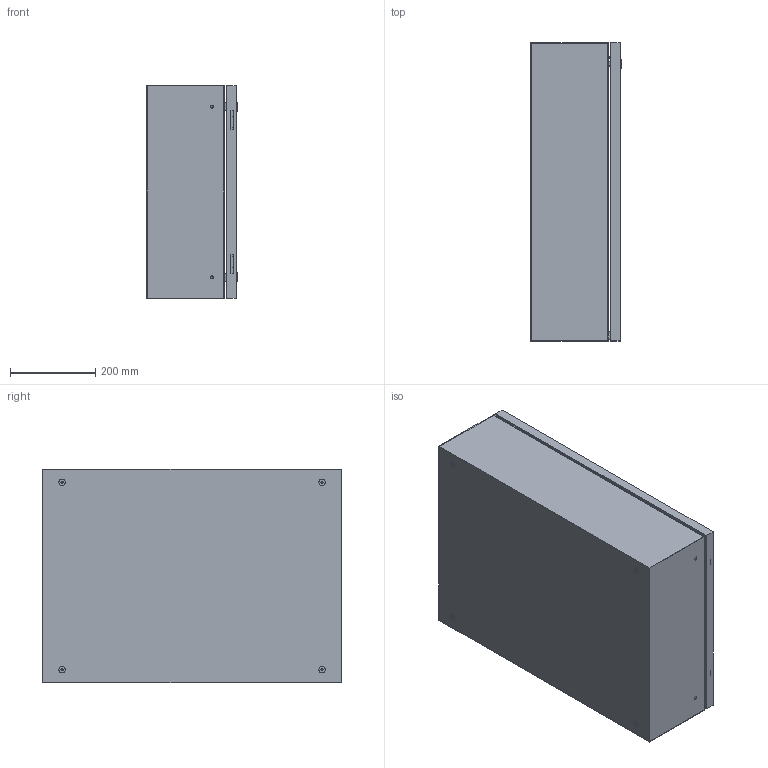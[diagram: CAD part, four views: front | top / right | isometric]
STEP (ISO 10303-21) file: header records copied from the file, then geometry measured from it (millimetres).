
FILE_DESCRIPTION(/* description */ ('Unknown'),/* implementation_level */ '2;1');
FILE_NAME(/* name */ 'CCA07005021',/* time_stamp */ '2024-08-01T08:46:58+02:00',/* author */ ('Unknown'),/* organization */ ('Unknown'),/* preprocessor_version */ 'ST-DEVELOPER v19.4',/* originating_system */ 'Solid Edge',/* authorisation */ 'Unknown');
FILE_SCHEMA (('AUTOMOTIVE_DESIGN {1 0 10303 214 3 1 1}'));
Length unit declared in the file: millimetre
Products named in the file (16): CCA07005021; C000X001.58; C0000001.51; C0000000.04; C0000000.05; AE00316.01; AE00601.01; AE00417.01; AE00891.02; C0000000.01; C000X001.59_oa_0; C000X001.60_oa_1; C0000001.52; C0000000.02; AE00198.02; AE00989.09
Assembly tree (35 placements, depth 4):
  CCA07005021
    C000X001.58
      C0000001.51
      C0000000.04  x4
      C0000000.05  x4
      AE00316.01  x2
      AE00601.01  x2
      AE00417.01  x4
      AE00891.02  x2
      C0000000.01  x2
    C000X001.59_oa_0
      C000X001.60_oa_1
        C0000001.52
      C0000000.02  x2
      AE00198.02  x2
      AE00989.09  x2
      AE00417.01  x2
    AE00198.02  x2
Bounding box: 215.02 x 700.11 x 500 mm (x, y, z)
Volume: 2127771.4 mm3; surface area: 2507416.4 mm2
Topology: 34 solids, 34 shells, 666 faces, 1620 edges, 1054 vertices
Faces by surface type: plane 434, cylinder 162, cone 36, torus 34
Full cylindrical faces by diameter (mm): 4 x2, 4.917 x6, 4.918 x2, 5.4 x2, 6 x14, 6.4 x2, 7.5 x6, 8 x4, 8.376 x8, 10 x6, 10.25 x4, 10.5 x4, 11 x2, 13.6 x2, 14 x4, 15 x4, 16 x4, 16.3 x2, 19.5 x2, 28 x2
Entity records: 11376 total; most frequent: CARTESIAN_POINT 1749, DIRECTION 1672, ORIENTED_EDGE 1540, EDGE_CURVE 770, AXIS2_PLACEMENT_3D 560, LINE 552, VECTOR 552, VERTEX_POINT 528
